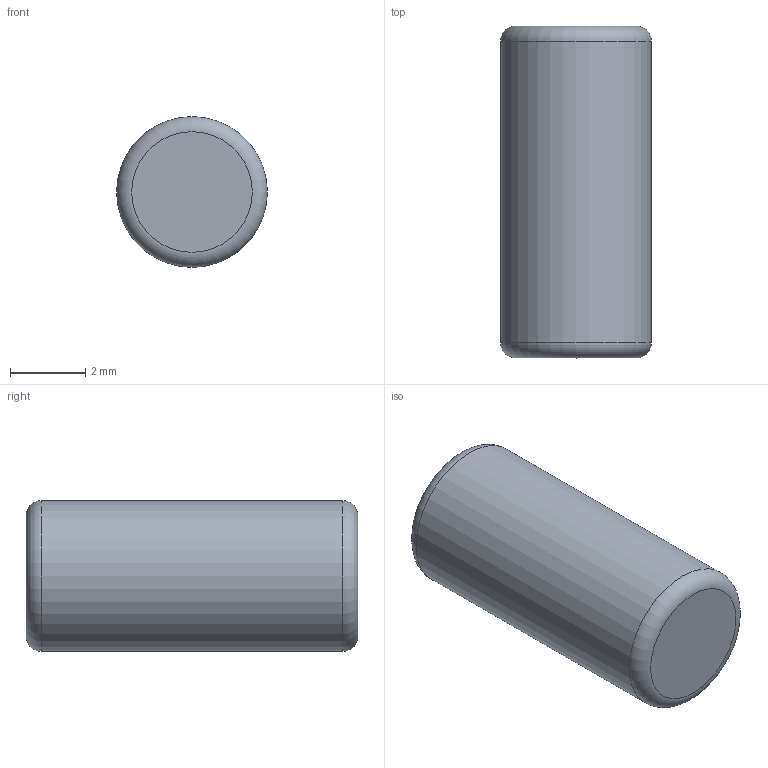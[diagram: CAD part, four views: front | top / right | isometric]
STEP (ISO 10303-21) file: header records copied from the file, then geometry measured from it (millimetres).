
FILE_DESCRIPTION(('Open CASCADE Model'),'2;1');
FILE_NAME('CUT_ROUTE_18_RADIAL_CLEARANCE_0p4','2026-09-15T14:22:01',( 'Author'),('Open CASCADE'),'Open CASCADE STEP processor 7.9', 'build123d','Unknown');
FILE_SCHEMA(('AUTOMOTIVE_DESIGN { 1 0 10303 214 1 1 1 1 }'));
Length unit declared in the file: millimetre
Products named in the file (1): CUT_ROUTE_18_RADIAL_CLEARANCE_0p4
Bounding box: 4 x 8.8 x 4 mm (x, y, z)
Volume: 109.8 mm3; surface area: 131.3 mm2
Topology: 1 solids, 1 shells, 5 faces, 7 edges, 4 vertices
Faces by surface type: torus 2, plane 2, cylinder 1
Full cylindrical faces by diameter (mm): 4 x1
Entity records: 212 total; most frequent: DIRECTION 39, CARTESIAN_POINT 31, ORIENTED_EDGE 14, PCURVE 14, DEFINITIONAL_REPRESENTATION 14, LINE 13, VECTOR 13, AXIS2_PLACEMENT_3D 12
